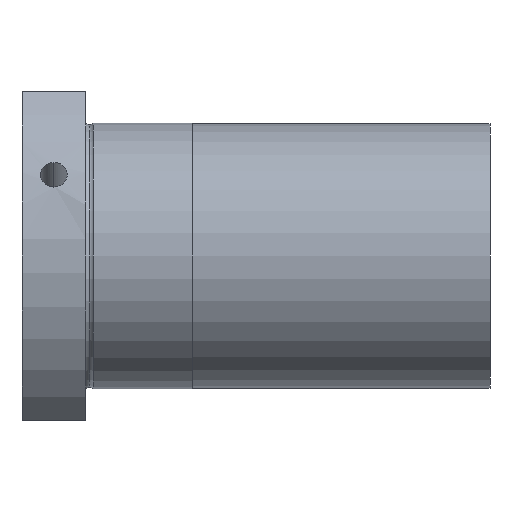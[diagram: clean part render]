
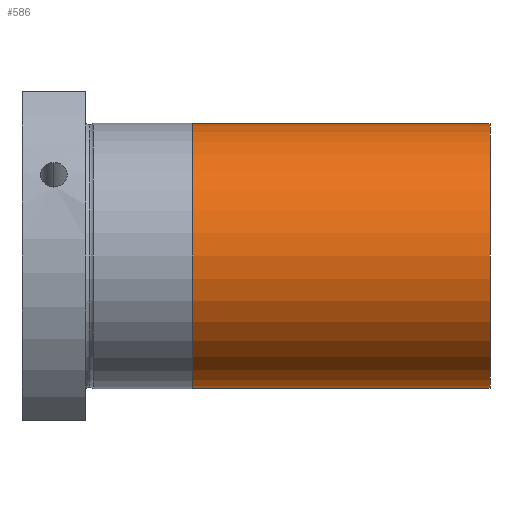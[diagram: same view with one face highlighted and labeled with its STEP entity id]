
A CAD part, front view. The second image highlights one B-rep face of the part: STEP entity #586.
In plain terms, the highlighted cylindrical face has radius 24.85 mm (diameter 49.7 mm), a partial arc.
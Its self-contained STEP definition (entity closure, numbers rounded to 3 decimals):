
#5 = EDGE_CURVE ( 'NONE', #687, #1069, #759, .T. ) ;
#33 = VECTOR ( 'NONE', #903, 1000. ) ;
#83 = DIRECTION ( 'NONE',  ( -1., 0., 0. ) ) ;
#116 = EDGE_LOOP ( 'NONE', ( #934, #859, #423, #834 ) ) ;
#235 = EDGE_CURVE ( 'NONE', #432, #687, #1061, .T. ) ;
#257 = DIRECTION ( 'NONE',  ( -1., 0., 0. ) ) ;
#259 = EDGE_CURVE ( 'NONE', #983, #1069, #580, .T. ) ;
#336 = DIRECTION ( 'NONE',  ( -1., 0., 0. ) ) ;
#338 = CARTESIAN_POINT ( 'NONE',  ( -100.792, 0., 24.85 ) ) ;
#423 = ORIENTED_EDGE ( 'NONE', *, *, #5, .T. ) ;
#432 = VERTEX_POINT ( 'NONE', #1152 ) ;
#459 = LINE ( 'NONE', #991, #712 ) ;
#474 = CYLINDRICAL_SURFACE ( 'NONE', #572, 24.85 ) ;
#498 = FACE_OUTER_BOUND ( 'NONE', #116, .T. ) ;
#520 = AXIS2_PLACEMENT_3D ( 'NONE', #560, #1197, #663 ) ;
#560 = CARTESIAN_POINT ( 'NONE',  ( -12.63, 0., 0. ) ) ;
#572 = AXIS2_PLACEMENT_3D ( 'NONE', #1088, #257, #918 ) ;
#580 = CIRCLE ( 'NONE', #520, 24.85 ) ;
#586 = ADVANCED_FACE ( 'NONE', ( #498 ), #474, .T. ) ;
#644 = AXIS2_PLACEMENT_3D ( 'NONE', #657, #83, #749 ) ;
#657 = CARTESIAN_POINT ( 'NONE',  ( 43.37, 0., 0. ) ) ;
#663 = DIRECTION ( 'NONE',  ( 0., 0., 1. ) ) ;
#687 = VERTEX_POINT ( 'NONE', #1062 ) ;
#712 = VECTOR ( 'NONE', #336, 1000. ) ;
#749 = DIRECTION ( 'NONE',  ( 0., 0., 1. ) ) ;
#759 = LINE ( 'NONE', #338, #33 ) ;
#834 = ORIENTED_EDGE ( 'NONE', *, *, #259, .F. ) ;
#859 = ORIENTED_EDGE ( 'NONE', *, *, #235, .T. ) ;
#903 = DIRECTION ( 'NONE',  ( -1., 0., 0. ) ) ;
#918 = DIRECTION ( 'NONE',  ( 0., 0., 1. ) ) ;
#934 = ORIENTED_EDGE ( 'NONE', *, *, #1134, .F. ) ;
#970 = CARTESIAN_POINT ( 'NONE',  ( -12.63, 0., 24.85 ) ) ;
#983 = VERTEX_POINT ( 'NONE', #1097 ) ;
#991 = CARTESIAN_POINT ( 'NONE',  ( -100.792, 0., -24.85 ) ) ;
#1061 = CIRCLE ( 'NONE', #644, 24.85 ) ;
#1062 = CARTESIAN_POINT ( 'NONE',  ( 43.37, 0., 24.85 ) ) ;
#1069 = VERTEX_POINT ( 'NONE', #970 ) ;
#1088 = CARTESIAN_POINT ( 'NONE',  ( -100.792, 0., 0. ) ) ;
#1097 = CARTESIAN_POINT ( 'NONE',  ( -12.63, 0., -24.85 ) ) ;
#1134 = EDGE_CURVE ( 'NONE', #432, #983, #459, .T. ) ;
#1152 = CARTESIAN_POINT ( 'NONE',  ( 43.37, 0., -24.85 ) ) ;
#1197 = DIRECTION ( 'NONE',  ( -1., 0., 0. ) ) ;
